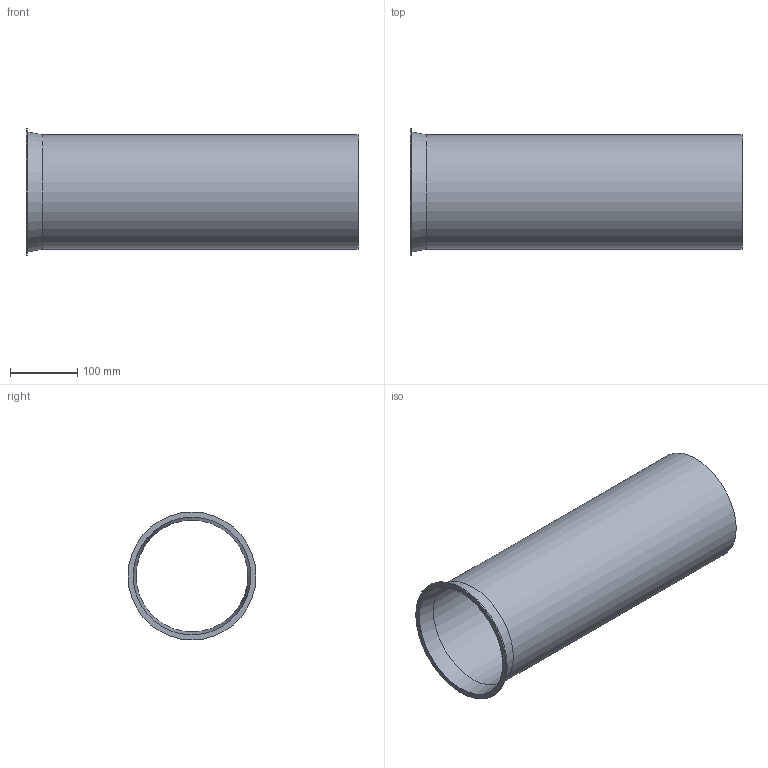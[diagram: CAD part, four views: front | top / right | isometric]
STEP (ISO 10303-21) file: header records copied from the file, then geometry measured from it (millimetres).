
FILE_DESCRIPTION((''),'2;1');
FILE_NAME('U:\Wolfgang\Marcel-3D\fertig\Kapitel 1\1711007.stp','2010-05-31T11:14:25',('TK2'),(''),'Autodesk Inventor 2010','Autodesk Inventor 2010','');
FILE_SCHEMA(('AUTOMOTIVE_DESIGN { 1 0 10303 214 1 1 1 1 }'));
Length unit declared in the file: millimetre
Products named in the file (1): 1711007
Bounding box: 493 x 190 x 190 mm (x, y, z)
Volume: 528223.6 mm3; surface area: 530462.1 mm2
Topology: 1 solids, 1 shells, 8 faces, 14 edges, 9 vertices
Faces by surface type: cylinder 3, plane 3, cone 2
Full cylindrical faces by diameter (mm): 166 x1, 170 x1, 190 x1
Entity records: 194 total; most frequent: DIRECTION 34, CARTESIAN_POINT 25, AXIS2_PLACEMENT_3D 17, ORIENTED_EDGE 16, EDGE_LOOP 16, VERTEX_POINT 8, CIRCLE 8, EDGE_CURVE 8
